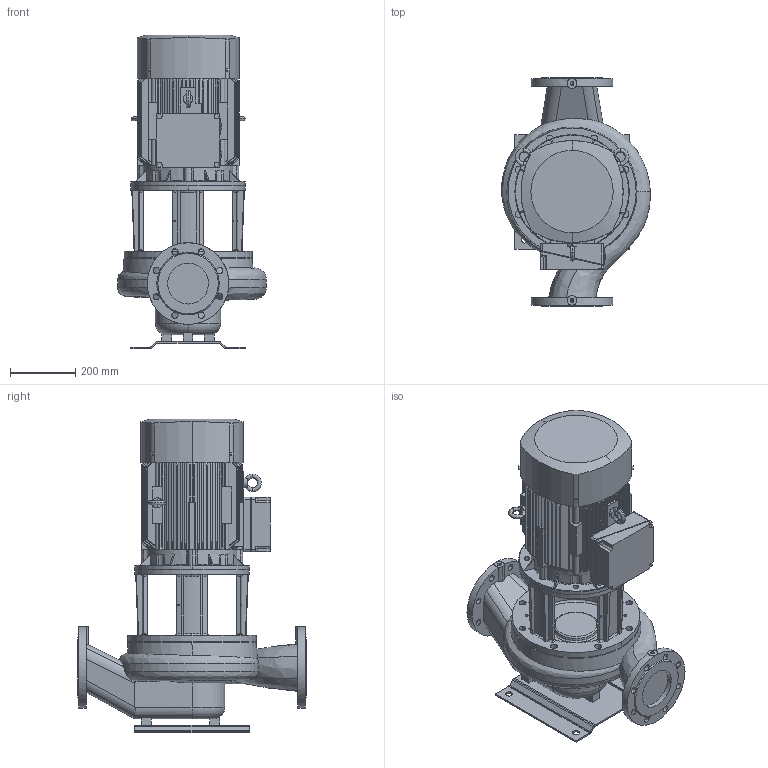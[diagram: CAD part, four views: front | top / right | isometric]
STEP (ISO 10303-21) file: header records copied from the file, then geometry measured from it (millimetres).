
FILE_DESCRIPTION(('STEP AP214'),'1');
FILE_NAME('export.stp','2018-05-29T13:23:43',(' '),(' '),'Spatial InterOp 3D',' ',' ');
FILE_SCHEMA(('AUTOMOTIVE_DESIGN { 1 0 10303 214 1 1 1 1 }'));
Length unit declared in the file: millimetre
Products named in the file (6): W_AL11294SD150; P100342; V_PPAL1129; V_TL110611291154; VEM_160_M4; P100781
Assembly tree (5 placements, depth 2):
  W_AL11294SD150
    P100342
    V_PPAL1129
    V_TL110611291154
    VEM_160_M4
    P100781
Bounding box: 455.94 x 700 x 960.75 mm (x, y, z)
Volume: 64262708.6 mm3; surface area: 3334552.2 mm2
Topology: 5 solids, 5 shells, 1125 faces, 3186 edges, 2090 vertices
Faces by surface type: plane 488, cylinder 394, cone 152, bspline 47, torus 44
Entity records: 53502 total; most frequent: CARTESIAN_POINT 14483, ORIENTED_EDGE 6344, DIRECTION 5690, EDGE_CURVE 3172, VERTEX_POINT 2088, AXIS2_PLACEMENT_3D 2073, LINE 1544, VECTOR 1544
